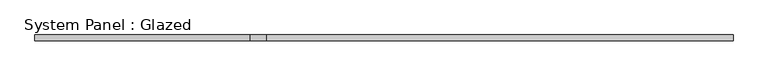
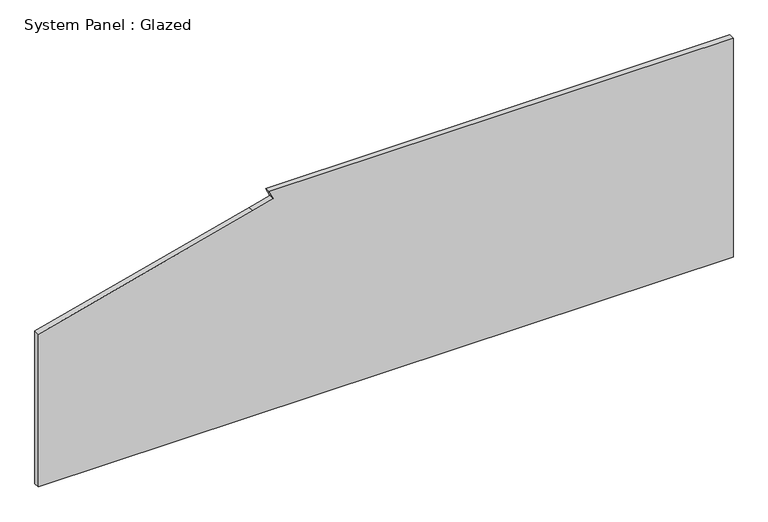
"""IFC4 building model written with IfcOpenShell, lengths in millimetres: plate geometry, System Panel : Glazed."""

from ifc_helpers import new_model, si_unit, frame, origin, place, context, project, spatial, polyline, outline, extrude, source, transform, mapped, element, save


def system_panel_glazed_c6ffd3cb(model_context):
    return source(origin(), model_context, "Body", "SweptSolid", [
        extrude(outline(polyline([(0.0, -1504.95), (0.0, 1504.95), (1003.3, 1504.95), (1003.3, -505.9732144), (965.0332656, -487.0728128), (941.0731733, -575.8332236), (700.3555875, -1504.95), (0.0, -1504.95)])), frame((0.0, 19.05, 0.0), z_axis=(0.0, 1.0, 0.0), x_axis=(0.0, 0.0, 1.0)), (0.0, 0.0, 1.0), 25.4),
    ])


if __name__ == "__main__":
    model = new_model("IFC4")
    model_context = context("Model", 3, world=origin())
    ifc_project = project(units=[si_unit("LENGTHUNIT", "METRE", prefix="MILLI")], contexts=[model_context])
    site = spatial("IfcSite", under=ifc_project)
    building = spatial("IfcBuilding", under=site)
    placement = place(None, origin())
    system_panel_glazed_shape = system_panel_glazed_c6ffd3cb(model_context)
    element("IfcPlate", 1, ObjectType="System Panel : Glazed", at=placement, inside=building, context=model_context, shape_type="MappedRepresentation", body=[
        mapped(system_panel_glazed_shape, transform((0.0, 0.0, 0.0), x_axis=(1.0, 0.0, 0.0), y_axis=(0.0, 1.0, 0.0), z_axis=(0.0, 0.0, 1.0))),
    ])
    save(model, "model.ifc")
